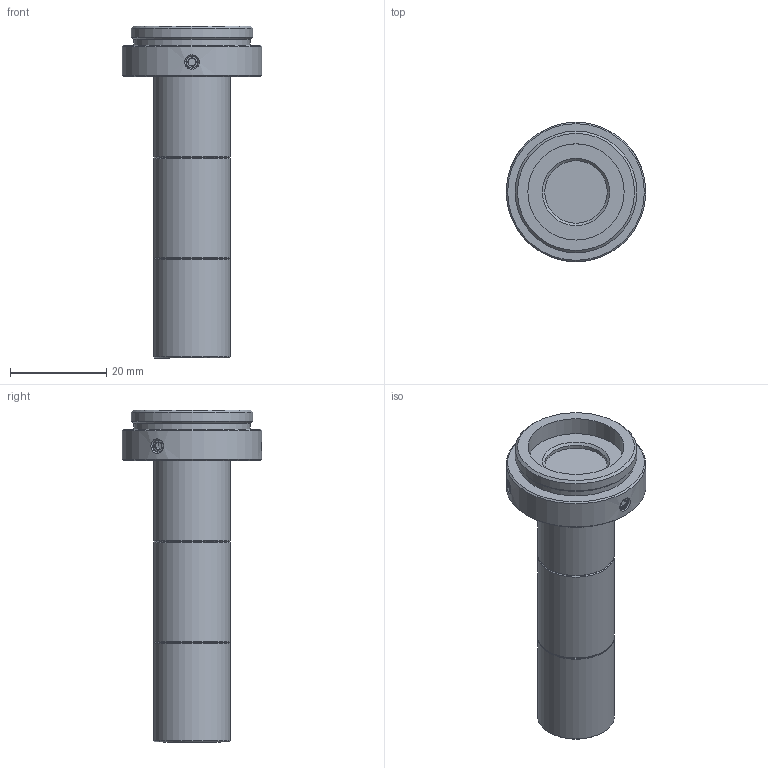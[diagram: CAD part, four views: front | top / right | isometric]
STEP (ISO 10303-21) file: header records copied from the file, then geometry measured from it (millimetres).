
FILE_DESCRIPTION(('STEP AP214'),'1');
FILE_NAME('RTK-2-65.stp','2026-03-18T01:26:07',(' '),(' '),'Spatial InterOp 3D',' ',' ');
FILE_SCHEMA(('AUTOMOTIVE_DESIGN { 1 0 10303 214 1 1 1 1 }'));
Length unit declared in the file: metre
Products named in the file (2): RTK-2-65; Component1
Assembly tree (1 placements, depth 2):
  RTK-2-65
    Component1
Bounding box: 29 x 29 x 68.99 mm (x, y, z)
Volume: 16343.3 mm3; surface area: 5608.1 mm2
Topology: 1 solids, 1 shells, 94 faces, 233 edges, 154 vertices
Faces by surface type: plane 40, cone 36, cylinder 14, bspline 3, sphere 1
Full cylindrical faces by diameter (mm): 2.5 x3, 12 x1, 13 x1, 16 x3, 20 x1, 24.12 x1, 25.32 x1, 29 x1
Entity records: 4567 total; most frequent: CARTESIAN_POINT 802, DIRECTION 408, ORIENTED_EDGE 380, STYLED_ITEM 284, PRESENTATION_STYLE_ASSIGNMENT 284, COLOUR_RGB 284, EDGE_CURVE 190, CURVE_STYLE 190
